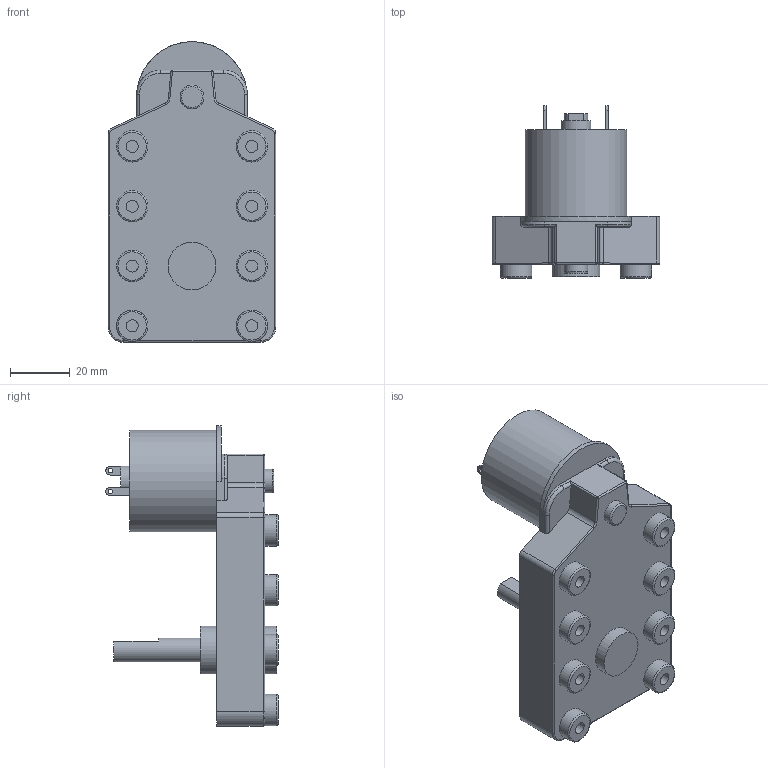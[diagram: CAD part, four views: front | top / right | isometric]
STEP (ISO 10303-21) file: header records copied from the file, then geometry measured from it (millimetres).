
FILE_DESCRIPTION((''),'2;1');
FILE_NAME('E:\2공장-도면\3D\표준형 3D(민규)\1공장 step\KGE-3429 R TYPE.stp','2015-02-26T12:14:41',('AHN'),(''),'Autodesk Inventor 2012','Autodesk Inventor 2012','');
FILE_SCHEMA(('CONFIG_CONTROL_DESIGN'));
Length unit declared in the file: millimetre
Products named in the file (1): KGE-3429 R타입
Bounding box: 56 x 57.6 x 100.5 mm (x, y, z)
Volume: 105657.7 mm3; surface area: 20610 mm2
Topology: 1 solids, 1 shells, 125 faces, 259 edges, 162 vertices
Faces by surface type: cylinder 53, plane 53, torus 17, sphere 2
Full cylindrical faces by diameter (mm): 1.5 x2, 2.2 x4, 4 x8, 8 x2, 10 x1, 10.5 x8, 16 x2, 34 x1
Entity records: 3175 total; most frequent: DIRECTION 593, CARTESIAN_POINT 542, ORIENTED_EDGE 438, AXIS2_PLACEMENT_3D 252, EDGE_CURVE 219, EDGE_LOOP 192, VERTEX_POINT 159, FACE_OUTER_BOUND 125
